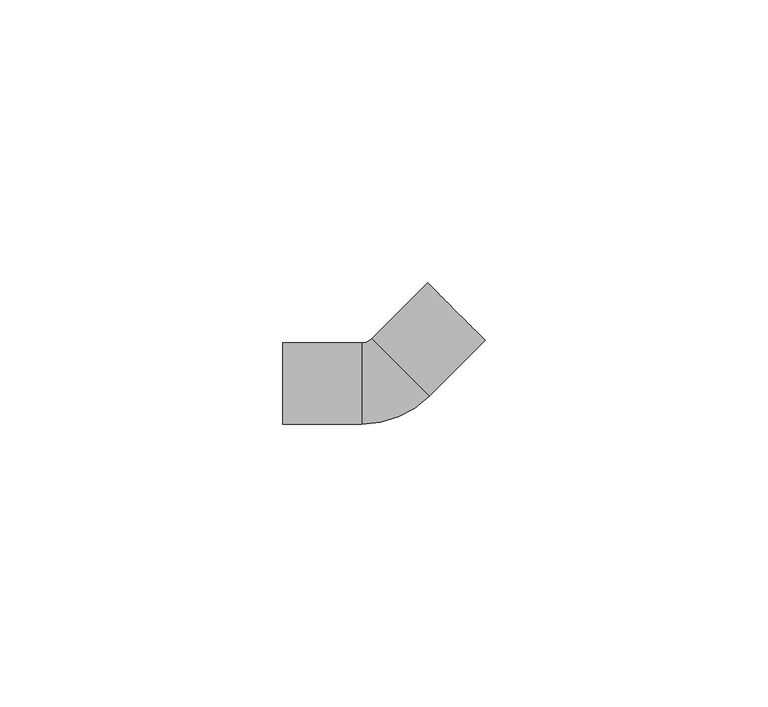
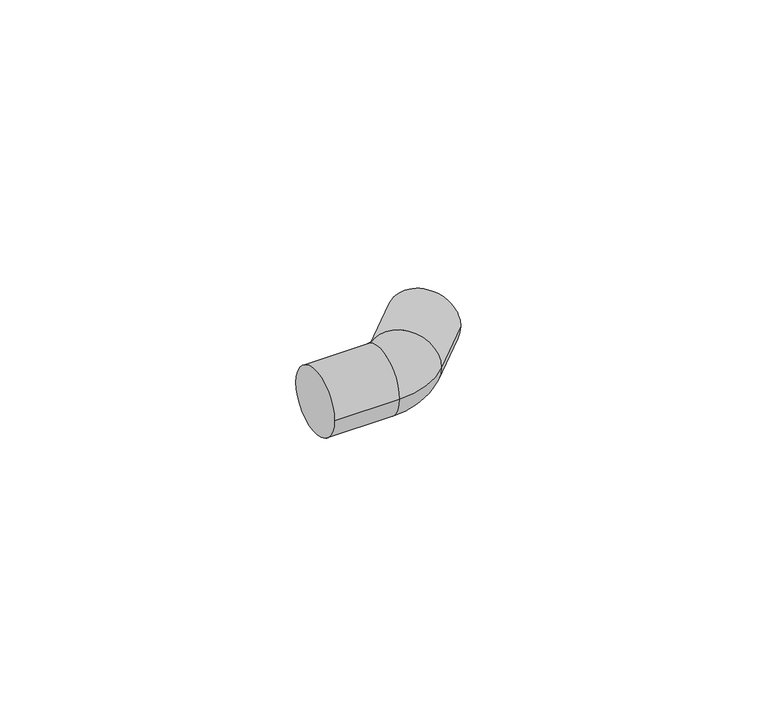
"""IFC4 building model written with IfcOpenShell, lengths in millimetres: pipe fitting geometry, 01051067 : Joelho a 45º."""

from ifc_helpers import new_model, si_unit, point, frame, origin, place, context, project, spatial, circle_curve, ellipse_curve, trimmed, source, transform, mapped, element, save
from ifc_brep_helpers import plane_surface, cylinder_surface, revolved_surface, advanced_brep


def pipe_fitting_20e0fc89(model_context):
    return source(origin(), model_context, "Body", "AdvancedBrep", [
        advanced_brep(
        [(-18.0, -7.2, 0.0), (-18.0, 7.2, 0.0), (-4.0, -7.2, 0.0), (-4.0, 7.2, 0.0), (-2.2627417, 7.9195959, 0.0), (7.9195959, -2.2627417, 0.0), (17.8190909, 7.6367532, 0.0), (7.6367532, 17.8190909, 0.0)],
        [
            (0, 1, circle_curve(frame((-18.0, 0.0, 0.0), z_axis=(-1.0, 0.0, 0.0), x_axis=(0.0, 1.0, 0.0)), 7.2)),
            (1, 0, circle_curve(frame((-18.0, 0.0, 0.0), z_axis=(-1.0, 0.0, 0.0), x_axis=(0.0, 1.0, 0.0)), 7.2)),
            (0, 2),
            (2, 3, circle_curve(frame((-4.0, 0.0, 0.0), z_axis=(-1.0, 0.0, 0.0), x_axis=(0.0, 1.0, 0.0)), 7.2)),
            (3, 1),
            (3, 2, circle_curve(frame((-4.0, 0.0, 0.0), z_axis=(-1.0, 0.0, 0.0), x_axis=(0.0, 1.0, 0.0)), 7.2)),
            (4, 3, circle_curve(frame((-4.0, 9.6568542, 0.0), z_axis=(0.0, 0.0, -1.0), x_axis=(0.0, -1.0, 0.0)), 2.4568542)),
            (2, 5, circle_curve(frame((-4.0, 9.6568542, 0.0), z_axis=(0.0, 0.0, 1.0), x_axis=(0.0, -1.0, 0.0)), 16.8568542)),
            (5, 4, circle_curve(frame((2.8284271, 2.8284271, 0.0), z_axis=(-0.7071067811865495, -0.7071067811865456, 0.0), x_axis=(-0.7071067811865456, 0.7071067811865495, 0.0)), 7.2)),
            (4, 5, circle_curve(frame((2.8284271, 2.8284271, 0.0), z_axis=(-0.7071067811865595, -0.7071067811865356, 0.0), x_axis=(-0.7071067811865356, 0.7071067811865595, 0.0)), 7.2)),
            (6, 7, circle_curve(frame((12.7279221, 12.7279221, 0.0), z_axis=(0.7071067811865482, 0.7071067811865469, 0.0), x_axis=(-0.7071067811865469, 0.7071067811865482, 0.0)), 7.2)),
            (7, 6, circle_curve(frame((12.7279221, 12.7279221, 0.0), z_axis=(0.7071067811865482, 0.7071067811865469, 0.0), x_axis=(-0.7071067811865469, 0.7071067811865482, 0.0)), 7.2)),
            (5, 6),
            (7, 4),
        ],
        [
            plane_surface(frame((-18.0, 0.0, 0.0), z_axis=(-1.0, 0.0, 0.0), x_axis=(0.0, 0.0, 1.0))),
            cylinder_surface(frame((-18.0, 0.0, 0.0), z_axis=(-1.0, 0.0, 0.0), x_axis=(0.0, 1.0, 0.0)), 7.2),
            revolved_surface(trimmed(ellipse_curve(frame((-4.0, 0.0, 0.0), z_axis=(-1.0, 0.0, 0.0), x_axis=(0.0, 1.0, 0.0)), 7.2, 7.2), [point((-4.0, -7.2, 0.0))], [point((-4.0, 7.2, 0.0))], True, "CARTESIAN"), (-4.0, 9.6568542, 0.0), (0.0, 0.0, 1.0)),
            revolved_surface(trimmed(ellipse_curve(frame((-4.0, 0.0, 0.0), z_axis=(-1.0, 0.0, 0.0), x_axis=(0.0, 1.0, 0.0)), 7.2, 7.2), [point((-4.0, 7.2, 0.0))], [point((-4.0, -7.2, 0.0))], True, "CARTESIAN"), (-4.0, 9.6568542, 0.0), (0.0, 0.0, 1.0)),
            plane_surface(frame((12.7279221, 12.7279221, 0.0), z_axis=(0.7071067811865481, 0.7071067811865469, 0.0), x_axis=(0.0, 0.0, 1.0))),
            cylinder_surface(frame((2.8284271, 2.8284271, 0.0), z_axis=(-0.7071067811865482, -0.7071067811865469, 0.0), x_axis=(-0.7071067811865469, 0.7071067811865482, 0.0)), 7.2),
        ],
        [
            (0, [[1, 2]]),
            (1, [[-1, 3, 4, 5]]),
            (1, [[-2, -5, 6, -3]]),
            (2, [[7, -4, 8, 9]]),
            (3, [[-8, -6, -7, 10]]),
            (4, [[11, 12]]),
            (5, [[-9, 13, -12, 14]]),
            (5, [[-10, -14, -11, -13]]),
        ],
    ),
    ])


if __name__ == "__main__":
    model = new_model("IFC4")
    model_context = context("Model", 3, world=origin())
    ifc_project = project(units=[si_unit("LENGTHUNIT", "METRE", prefix="MILLI")], contexts=[model_context])
    site = spatial("IfcSite", under=ifc_project)
    building = spatial("IfcBuilding", under=site)
    placement = place(None, origin())
    pipe_fitting_shape = pipe_fitting_20e0fc89(model_context)
    element("IfcPipeFitting", 1, ObjectType="01051067 : Joelho a 45º", at=placement, inside=building, context=model_context, shape_type="MappedRepresentation", body=[
        mapped(pipe_fitting_shape, transform((0.0, 0.0, 0.0), x_axis=(1.0, 0.0, 0.0), y_axis=(0.0, 1.0, 0.0), z_axis=(0.0, 0.0, 1.0))),
    ])
    save(model, "model.ifc")
